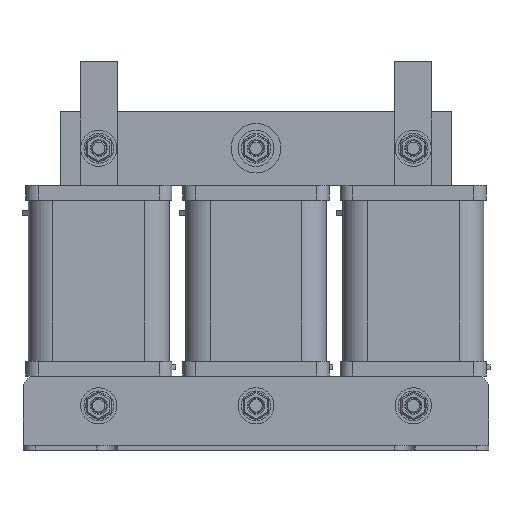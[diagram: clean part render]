
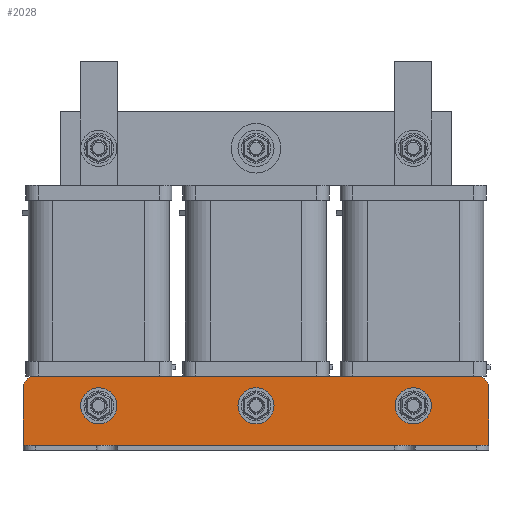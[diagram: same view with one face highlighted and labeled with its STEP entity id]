
A CAD part, front view. The second image highlights one B-rep face of the part: STEP entity #2028.
In plain terms, the highlighted planar face has unit normal (0, -1, 0) as drawn and (0, 1, 0) by its records, which use the part's own axes.
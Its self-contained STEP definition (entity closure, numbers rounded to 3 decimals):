
#2028=ADVANCED_FACE('',(#2269,#2271,#2273,#2275),#2277,.T.);
#2269=FACE_BOUND('',#2270,.T.);
#2270=EDGE_LOOP('',(#3525,#3526,#3527,#3528,#3529,#3530));
#2271=FACE_BOUND('',#2272,.T.);
#2272=EDGE_LOOP('',(#3531));
#2273=FACE_BOUND('',#2274,.T.);
#2274=EDGE_LOOP('',(#3532));
#2275=FACE_BOUND('',#2276,.T.);
#2276=EDGE_LOOP('',(#3533));
#2277=PLANE('',#2278);
#2278=AXIS2_PLACEMENT_3D('',#2279,#2280,#2281);
#2279=CARTESIAN_POINT('',(94.,-13.,2.));
#2280=DIRECTION('',(0.,1.,-0.));
#2281=DIRECTION('',(-1.,0.,0.));
#3525=ORIENTED_EDGE('',*,*,#4269,.F.);
#3526=ORIENTED_EDGE('',*,*,#4270,.F.);
#3527=ORIENTED_EDGE('',*,*,#4271,.T.);
#3528=ORIENTED_EDGE('',*,*,#4272,.T.);
#3529=ORIENTED_EDGE('',*,*,#4273,.F.);
#3530=ORIENTED_EDGE('',*,*,#4274,.F.);
#3531=ORIENTED_EDGE('',*,*,#4275,.T.);
#3532=ORIENTED_EDGE('',*,*,#4276,.T.);
#3533=ORIENTED_EDGE('',*,*,#4277,.T.);
#4269=EDGE_CURVE('',#4664,#4665,#4666,.F.);
#4270=EDGE_CURVE('',#4667,#4664,#4668,.T.);
#4271=EDGE_CURVE('',#4667,#4669,#4670,.T.);
#4272=EDGE_CURVE('',#4669,#4671,#4672,.T.);
#4273=EDGE_CURVE('',#4673,#4671,#4674,.F.);
#4274=EDGE_CURVE('',#4665,#4673,#4675,.T.);
#4275=EDGE_CURVE('',#4676,#4676,#4677,.F.);
#4276=EDGE_CURVE('',#4678,#4678,#4679,.F.);
#4277=EDGE_CURVE('',#4680,#4680,#4681,.F.);
#4664=VERTEX_POINT('',#5348);
#4665=VERTEX_POINT('',#5349);
#4666=CIRCLE('',#5350,5.);
#4667=VERTEX_POINT('',#5354);
#4668=LINE('',#5355,#5356);
#4669=VERTEX_POINT('',#5358);
#4670=LINE('',#5359,#5360);
#4671=VERTEX_POINT('',#5362);
#4672=LINE('',#5363,#5364);
#4673=VERTEX_POINT('',#5366);
#4674=CIRCLE('',#5367,5.);
#4675=LINE('',#5371,#5372);
#4676=VERTEX_POINT('',#5374);
#4677=CIRCLE('',#5375,3.);
#4678=VERTEX_POINT('',#5379);
#4679=CIRCLE('',#5380,3.);
#4680=VERTEX_POINT('',#5384);
#4681=CIRCLE('',#5385,3.);
#5348=CARTESIAN_POINT('',(94.,-13.,25.));
#5349=CARTESIAN_POINT('',(89.,-13.,30.));
#5350=AXIS2_PLACEMENT_3D('',#5351,#5352,#5353);
#5351=CARTESIAN_POINT('',(89.,-13.,25.));
#5352=DIRECTION('',(0.,1.,-0.));
#5353=DIRECTION('',(0.,0.,1.));
#5354=CARTESIAN_POINT('',(94.,-13.,2.));
#5355=CARTESIAN_POINT('',(94.,-13.,2.));
#5356=VECTOR('',#5357,1.);
#5357=DIRECTION('',(0.,0.,1.));
#5358=CARTESIAN_POINT('',(-94.,-13.,2.));
#5359=CARTESIAN_POINT('',(94.,-13.,2.));
#5360=VECTOR('',#5361,1.);
#5361=DIRECTION('',(-1.,0.,0.));
#5362=CARTESIAN_POINT('',(-94.,-13.,25.));
#5363=CARTESIAN_POINT('',(-94.,-13.,2.));
#5364=VECTOR('',#5365,1.);
#5365=DIRECTION('',(0.,0.,1.));
#5366=CARTESIAN_POINT('',(-89.,-13.,30.));
#5367=AXIS2_PLACEMENT_3D('',#5368,#5369,#5370);
#5368=CARTESIAN_POINT('',(-89.,-13.,25.));
#5369=DIRECTION('',(0.,1.,-0.));
#5370=DIRECTION('',(-1.,0.,0.));
#5371=CARTESIAN_POINT('',(89.,-13.,30.));
#5372=VECTOR('',#5373,1.);
#5373=DIRECTION('',(-1.,0.,0.));
#5374=CARTESIAN_POINT('',(60.5,-13.,18.));
#5375=AXIS2_PLACEMENT_3D('',#5376,#5377,#5378);
#5376=CARTESIAN_POINT('',(63.5,-13.,18.));
#5377=DIRECTION('',(0.,1.,-0.));
#5378=DIRECTION('',(-1.,0.,0.));
#5379=CARTESIAN_POINT('',(-3.,-13.,18.));
#5380=AXIS2_PLACEMENT_3D('',#5381,#5382,#5383);
#5381=CARTESIAN_POINT('',(0.,-13.,18.));
#5382=DIRECTION('',(0.,1.,-0.));
#5383=DIRECTION('',(-1.,0.,0.));
#5384=CARTESIAN_POINT('',(-66.5,-13.,18.));
#5385=AXIS2_PLACEMENT_3D('',#5386,#5387,#5388);
#5386=CARTESIAN_POINT('',(-63.5,-13.,18.));
#5387=DIRECTION('',(0.,1.,-0.));
#5388=DIRECTION('',(-1.,0.,0.));
